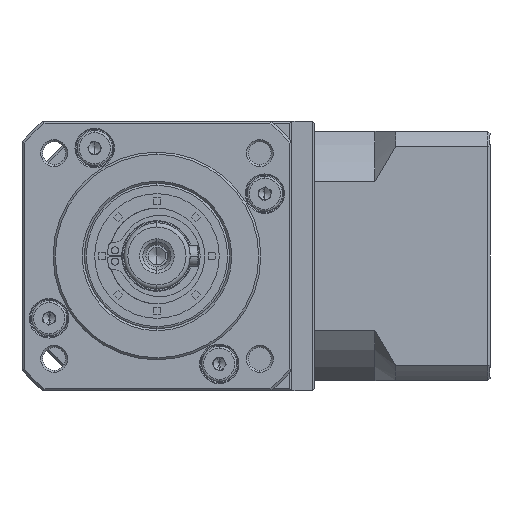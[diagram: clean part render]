
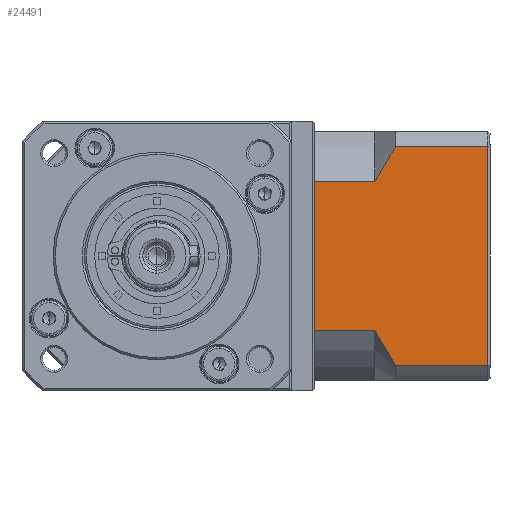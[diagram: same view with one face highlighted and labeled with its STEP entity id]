
A CAD part, left-side view. The second image highlights one B-rep face of the part: STEP entity #24491.
In plain terms, the highlighted planar face has unit normal (-1, 0, 0).
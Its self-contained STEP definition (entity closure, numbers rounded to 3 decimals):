
#329 = EDGE_CURVE ( 'NONE', #19232, #95675, #57349, .T. ) ;
#368 = CARTESIAN_POINT ( 'NONE',  ( -38.56, -68.075, -137.608 ) ) ;
#375 = DIRECTION ( 'NONE',  ( 0., -1., 0. ) ) ;
#2513 = CARTESIAN_POINT ( 'NONE',  ( -38.56, -69.625, -140.489 ) ) ;
#2753 = EDGE_CURVE ( 'NONE', #67356, #86047, #7104, .T. ) ;
#4859 = AXIS2_PLACEMENT_3D ( 'NONE', #160763, #84927, #9016 ) ;
#7104 = LINE ( 'NONE', #103183, #133985 ) ;
#9016 = DIRECTION ( 'NONE',  ( 0., 1., 0. ) ) ;
#11672 = EDGE_CURVE ( 'NONE', #16221, #86047, #21340, .T. ) ;
#15273 = CARTESIAN_POINT ( 'NONE',  ( -38.56, -68.825, -139.064 ) ) ;
#15992 = CARTESIAN_POINT ( 'NONE',  ( -38.56, -73.075, -93.122 ) ) ;
#16221 = VERTEX_POINT ( 'NONE', #132776 ) ;
#19232 = VERTEX_POINT ( 'NONE', #368 ) ;
#21198 = PLANE ( 'NONE',  #4859 ) ;
#21340 = LINE ( 'NONE', #140942, #51072 ) ;
#23171 = ORIENTED_EDGE ( 'NONE', *, *, #329, .T. ) ;
#24419 = FACE_OUTER_BOUND ( 'NONE', #46056, .T. ) ;
#24491 = ADVANCED_FACE ( 'NONE', ( #24419 ), #21198, .F. ) ;
#25149 = ORIENTED_EDGE ( 'NONE', *, *, #34391, .F. ) ;
#28682 = CARTESIAN_POINT ( 'NONE',  ( -38.56, -72.175, -94.482 ) ) ;
#34319 = ORIENTED_EDGE ( 'NONE', *, *, #109187, .T. ) ;
#34391 = EDGE_CURVE ( 'NONE', #63686, #80005, #107471, .T. ) ;
#38744 = ORIENTED_EDGE ( 'NONE', *, *, #2753, .F. ) ;
#40050 = VECTOR ( 'NONE', #375, 1000. ) ;
#41513 = ORIENTED_EDGE ( 'NONE', *, *, #98700, .T. ) ;
#42581 = VECTOR ( 'NONE', #122968, 1000. ) ;
#46056 = EDGE_LOOP ( 'NONE', ( #58576, #71317, #38744, #34319, #25149, #41513, #122050, #23171 ) ) ;
#47061 = CARTESIAN_POINT ( 'NONE',  ( -38.56, -68.075, -137.608 ) ) ;
#48977 = VECTOR ( 'NONE', #89547, 1000. ) ;
#51072 = VECTOR ( 'NONE', #128123, 1000. ) ;
#52730 = DIRECTION ( 'NONE',  ( 0., -1., 0. ) ) ;
#57349 = B_SPLINE_CURVE_WITH_KNOTS ( 'NONE', 3,
 ( #142170, #15273, #2513, #66214, #154846, #78964 ),
 .UNSPECIFIED., .F., .F.,
 ( 4, 2, 4 ),
 ( 0.1, 0.104, 0.109 ),
 .UNSPECIFIED. ) ;
#58576 = ORIENTED_EDGE ( 'NONE', *, *, #77929, .F. ) ;
#63686 = VERTEX_POINT ( 'NONE', #97402 ) ;
#64024 = CARTESIAN_POINT ( 'NONE',  ( -38.56, -68.075, -146.037 ) ) ;
#66214 = CARTESIAN_POINT ( 'NONE',  ( -38.56, -71.299, -143.295 ) ) ;
#66949 = CARTESIAN_POINT ( 'NONE',  ( -38.56, -69.626, -98.669 ) ) ;
#67356 = VERTEX_POINT ( 'NONE', #109899 ) ;
#71317 = ORIENTED_EDGE ( 'NONE', *, *, #11672, .T. ) ;
#75258 = CARTESIAN_POINT ( 'NONE',  ( -38.56, -68.075, -101.552 ) ) ;
#77929 = EDGE_CURVE ( 'NONE', #16221, #95675, #150071, .T. ) ;
#78964 = CARTESIAN_POINT ( 'NONE',  ( -38.56, -73.075, -146.037 ) ) ;
#79669 = CARTESIAN_POINT ( 'NONE',  ( -38.56, -68.075, -101.552 ) ) ;
#80005 = VERTEX_POINT ( 'NONE', #75258 ) ;
#83547 = CARTESIAN_POINT ( 'NONE',  ( -38.56, -95.275, -93.122 ) ) ;
#84927 = DIRECTION ( 'NONE',  ( 1., 0., 0. ) ) ;
#86047 = VERTEX_POINT ( 'NONE', #83547 ) ;
#89547 = DIRECTION ( 'NONE',  ( 0., 1., 0. ) ) ;
#93633 = DIRECTION ( 'NONE',  ( 0., 0., -1. ) ) ;
#95675 = VERTEX_POINT ( 'NONE', #135186 ) ;
#97402 = CARTESIAN_POINT ( 'NONE',  ( -38.56, -53.575, -101.552 ) ) ;
#98700 = EDGE_CURVE ( 'NONE', #63686, #110660, #159733, .T. ) ;
#103183 = CARTESIAN_POINT ( 'NONE',  ( -38.56, -68.075, -93.122 ) ) ;
#105996 = LINE ( 'NONE', #47061, #42581 ) ;
#107471 = LINE ( 'NONE', #152170, #40050 ) ;
#109187 = EDGE_CURVE ( 'NONE', #67356, #80005, #128683, .T. ) ;
#109899 = CARTESIAN_POINT ( 'NONE',  ( -38.56, -73.075, -93.122 ) ) ;
#110660 = VERTEX_POINT ( 'NONE', #118076 ) ;
#118076 = CARTESIAN_POINT ( 'NONE',  ( -38.56, -53.575, -137.608 ) ) ;
#118161 = VECTOR ( 'NONE', #93633, 1000. ) ;
#122050 = ORIENTED_EDGE ( 'NONE', *, *, #134574, .F. ) ;
#122968 = DIRECTION ( 'NONE',  ( 0., 1., 0. ) ) ;
#128123 = DIRECTION ( 'NONE',  ( 0., 0., 1. ) ) ;
#128683 = B_SPLINE_CURVE_WITH_KNOTS ( 'NONE', 3,
 ( #15992, #28682, #142868, #66949, #155551, #79669 ),
 .UNSPECIFIED., .F., .F.,
 ( 4, 2, 4 ),
 ( 0.052, 0.057, 0.062 ),
 .UNSPECIFIED. ) ;
#132776 = CARTESIAN_POINT ( 'NONE',  ( -38.56, -95.275, -146.037 ) ) ;
#133985 = VECTOR ( 'NONE', #52730, 1000. ) ;
#134574 = EDGE_CURVE ( 'NONE', #19232, #110660, #105996, .T. ) ;
#135186 = CARTESIAN_POINT ( 'NONE',  ( -38.56, -73.075, -146.037 ) ) ;
#140942 = CARTESIAN_POINT ( 'NONE',  ( -38.56, -95.275, -149.58 ) ) ;
#142170 = CARTESIAN_POINT ( 'NONE',  ( -38.56, -68.075, -137.608 ) ) ;
#142868 = CARTESIAN_POINT ( 'NONE',  ( -38.56, -71.302, -95.861 ) ) ;
#150071 = LINE ( 'NONE', #64024, #48977 ) ;
#152170 = CARTESIAN_POINT ( 'NONE',  ( -38.56, -68.075, -101.552 ) ) ;
#154846 = CARTESIAN_POINT ( 'NONE',  ( -38.56, -72.173, -144.675 ) ) ;
#155551 = CARTESIAN_POINT ( 'NONE',  ( -38.56, -68.823, -100.1 ) ) ;
#156748 = CARTESIAN_POINT ( 'NONE',  ( -38.56, -53.575, -149.58 ) ) ;
#159733 = LINE ( 'NONE', #156748, #118161 ) ;
#160763 = CARTESIAN_POINT ( 'NONE',  ( -38.56, -95.775, -149.58 ) ) ;
